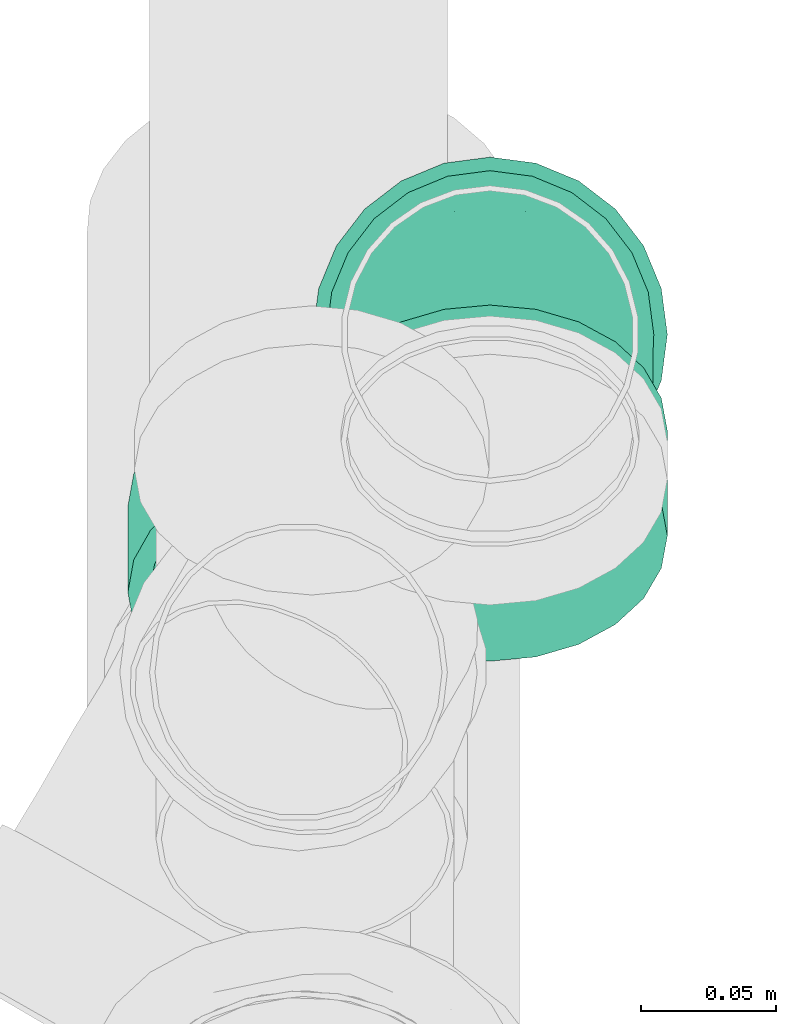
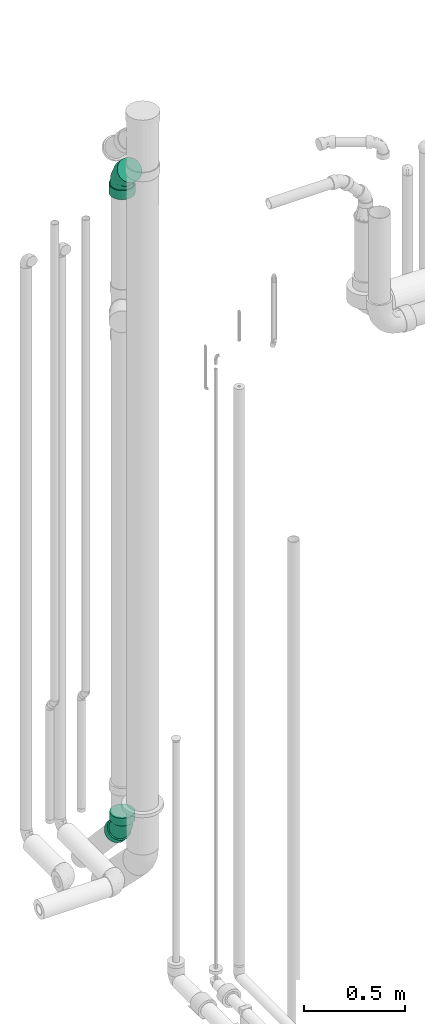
# One storey, part 55 of 78: 2 flow fittings.
"""IFC2X3 building model written with IfcOpenShell, lengths in millimetres."""

from ifc_helpers import new_model, entity, si_unit, converted_unit, derived_unit, direction, frame, origin_with_axes, place, context, subcontext, project, spatial, open_shell, surface_model, source, transform, mapped, type_object, element, save


model = new_model("IFC2X3")

# Units and contexts
model_context = context("Model", 3, precision=0.01, world=frame((0.0, 4.29681676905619e-09, 0.0)), true_north=direction((4.01073788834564e-13, 1.0)))
plan_context = context("Plan", 3, precision=0.01, world=frame((0.0, 4.29681676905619e-09, 0.0)), true_north=direction((4.01073788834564e-13, 1.0)))
body_context = subcontext(model_context, "Body", "Model", "MODEL_VIEW")
ifc_project = project(units=[converted_unit("PLANEANGLEUNIT", "DEGREE", entity("IfcPositiveLengthMeasure", 0.0174532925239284), si_unit("PLANEANGLEUNIT", "RADIAN"), dimensions=[0, 0, 0, 0, 0, 0, 0]), si_unit("AREAUNIT", "SQUARE_METRE"), si_unit("LENGTHUNIT", "METRE", prefix="MILLI"), si_unit("MASSUNIT", "GRAM", prefix="KILO"), si_unit("POWERUNIT", "WATT"), si_unit("PRESSUREUNIT", "PASCAL"), si_unit("FORCEUNIT", "NEWTON", prefix="KILO"), si_unit("ELECTRICVOLTAGEUNIT", "VOLT"), si_unit("ELECTRICCURRENTUNIT", "AMPERE"), si_unit("THERMODYNAMICTEMPERATUREUNIT", "DEGREE_CELSIUS"), si_unit("TIMEUNIT", "SECOND"), si_unit("VOLUMEUNIT", "CUBIC_METRE"), derived_unit("LINEARVELOCITYUNIT", [(si_unit("LENGTHUNIT", "METRE"), 1), (si_unit("TIMEUNIT", "SECOND"), -1)]), derived_unit("VOLUMETRICFLOWRATEUNIT", [(si_unit("VOLUMEUNIT", "CUBIC_METRE"), 1), (si_unit("TIMEUNIT", "SECOND"), -1)]), derived_unit("THERMALTRANSMITTANCEUNIT", [(si_unit("POWERUNIT", "WATT"), 1), (si_unit("THERMODYNAMICTEMPERATUREUNIT", "KELVIN"), -1), (si_unit("AREAUNIT", "SQUARE_METRE"), -1)]), derived_unit("SOUNDPRESSUREUNIT", [(si_unit("PRESSUREUNIT", "PASCAL"), 1)])], contexts=[model_context, plan_context])

# Site, building, storey
site_placement = place(None, frame((0.0, -4.29681676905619e-09, 0.0), z_axis=(0.0, 0.0, 1.0), x_axis=(1.0, 0.0, 0.0)))
site = spatial("IfcSite", under=ifc_project, at=site_placement, Name="ENGM", CompositionType="ELEMENT")
building_placement = place(site_placement, frame((0.0, 4.29681676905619e-09, 0.0), z_axis=(0.0, 0.0, 1.0), x_axis=(1.0, 0.0, 0.0)))
building = spatial("IfcBuilding", under=site, at=building_placement, Name="TH", CompositionType="ELEMENT")
storey_placement = place(building_placement, frame((0.0, 0.0, 205200.0), z_axis=(0.0, 0.0, 1.0), x_axis=(1.0, 0.0, 0.0)))
storey = spatial("IfcBuildingStorey", under=building, at=storey_placement, Name="Nivå D + 1,2 m", CompositionType="ELEMENT", Elevation=205200.0)

# Flow fittings
pipe_fitting_type_1 = type_object("IfcPipeFittingType", Name="magi_sewer_bend_001 2", PredefinedType="BEND")
shared_shape_1 = source(origin_with_axes(), body_context, "Body", "SurfaceModel", [
    surface_model("IfcShellBasedSurfaceModel", [(-105.11984, -16.95265, -63.26814), (-105.11984, -32.75, -56.72466), (-105.11984, -46.3155, -46.3155), (-105.11984, -63.26814, -16.95265), (-105.11984, 56.72466, -32.75), (-105.11984, 65.5, 0.0), (-105.11984, -56.72466, -32.75), (-105.11984, 16.95265, -63.26814), (-105.11984, 46.3155, -46.3155), (-105.11984, 32.75, -56.72466), (-105.11984, 0.0, -65.5), (-105.11984, 63.26814, -16.95265), (-105.11984, -65.5, 0.0), (-105.11984, -63.26814, 16.95265), (-105.11984, -56.72466, 32.75), (-105.11984, -46.3155, 46.3155), (-105.11984, -16.95265, 63.26814), (-105.11984, 0.0, 65.5), (-105.11984, -32.75, 56.72466), (-105.11984, 63.26814, 16.95265), (-105.11984, 46.3155, 46.3155), (-105.11984, 56.72466, 32.75), (-105.11984, 16.95265, 63.26814), (-105.11984, 32.75, 56.72466), (-50.11984, -16.95265, 63.26814), (-50.11984, 16.95265, 63.26814), (-50.11984, 0.0, 65.5), (-50.11984, -46.3155, 46.3155), (-50.11984, -32.75, 56.72466), (-50.11984, -56.72466, 32.75), (-50.11984, -63.26814, 16.95265), (-50.11984, 46.3155, 46.3155), (-50.11984, 32.75, 56.72466), (-50.11984, 63.26814, 16.95265), (-50.11984, 56.72466, 32.75), (-50.11984, 63.26814, -16.95265), (-50.11984, 65.5, 0.0), (-50.11984, -63.26814, -16.95265), (-50.11984, 32.75, -56.72466), (-50.11984, -65.5, 0.0), (-50.11984, -16.95265, -63.26814), (-50.11984, -56.72466, -32.75), (-50.11984, -46.3155, -46.3155), (-50.11984, -32.75, -56.72466), (-50.11984, 0.0, -65.5), (-50.11984, 46.3155, -46.3155), (-50.11984, 56.72466, -32.75), (-50.11984, 16.95265, -63.26814), (29.59362, 119.06829, 16.95265), (34.22056, 114.44134, 32.75), (41.58095, 107.08095, 46.3155), (62.34362, 86.31829, 63.26814), (51.17321, 97.4887, -56.72466), (51.17321, 97.4887, 56.72466), (74.33095, 74.33095, 65.5), (29.59362, 119.06829, -16.95265), (28.01546, 120.64644, 0.0), (34.22056, 114.44134, -32.75), (41.58095, 107.08095, -46.3155), (62.34362, 86.31829, -63.26814), (86.31829, 62.34362, 63.26814), (97.4887, 51.17321, 56.72466), (107.08095, 41.58095, 46.3155), (86.31829, 62.34362, -63.26814), (119.06829, 29.59362, 16.95265), (120.64644, 28.01546, 0.0), (114.44134, 34.22056, 32.75), (97.4887, 51.17321, -56.72466), (74.33095, 74.33095, -65.5), (114.44134, 34.22056, -32.75), (107.08095, 41.58095, -46.3155), (119.06829, 29.59362, -16.95265), (81.75557, -10.87541, 0.0), (80.17741, -9.29725, 16.95265), (75.55048, -4.67032, 32.75), (68.19008, 2.69008, 46.3155), (58.59783, 12.28233, 56.72466), (47.42741, 23.45275, 63.26814), (35.44008, 35.44008, -65.5), (23.45275, 47.42741, 63.26814), (75.55048, -4.67032, -32.75), (47.42741, 23.45275, -63.26814), (68.19008, 2.69008, -46.3155), (80.17741, -9.29725, -16.95265), (58.59783, 12.28233, -56.72466), (35.44008, 35.44008, 65.5), (-4.67032, 75.55048, -32.75), (-9.29725, 80.17741, 16.95265), (12.28233, 58.59783, 56.72466), (-4.67032, 75.55048, 32.75), (2.69008, 68.19008, 46.3155), (-10.87541, 81.75557, 0.0), (2.69008, 68.19008, -46.3155), (12.28233, 58.59783, -56.72466), (23.45275, 47.42741, -63.26814), (-9.29725, 80.17741, -16.95265), (-50.11984, 15.65855, -58.43851), (-50.11984, 0.0, -60.5), (-50.11984, 58.43851, -15.65855), (-50.11984, 30.25, -52.39454), (-50.11984, 52.39454, -30.25), (-50.11984, 42.77996, -42.77996), (-50.11984, -60.5, 0.0), (-50.11984, -30.25, -52.39454), (-50.11984, -42.77996, -42.77996), (-50.11984, -15.65855, -58.43851), (-50.11984, -58.43851, -15.65855), (-50.11984, -52.39454, -30.25), (-50.11984, -58.43851, 15.65855), (-50.11984, 58.43851, 15.65855), (-50.11984, 52.39454, 30.25), (-50.11984, 42.77996, 42.77996), (-50.11984, 30.25, 52.39454), (-50.11984, 15.65855, 58.43851), (-50.11984, -52.39454, 30.25), (-50.11984, -42.77996, 42.77996), (-50.11984, -30.25, 52.39454), (-50.11984, -15.65855, 58.43851), (-50.11984, 0.0, 60.5), (-50.11984, 60.5, 0.0), (-5.88219, 76.76235, -15.65855), (35.44008, 35.44008, -60.5), (24.36781, 46.51235, -58.43851), (14.0501, 56.83006, -52.39454), (5.19008, 65.69008, -42.77996), (-1.60845, 72.48861, -30.25), (46.51235, 24.36781, -58.43851), (56.83006, 14.0501, -52.39454), (78.22004, -7.33988, 0.0), (65.69008, 5.19008, -42.77996), (72.48861, -1.60845, -30.25), (76.76235, -5.88219, -15.65855), (-7.33988, 78.22004, 0.0), (24.36781, 46.51235, 58.43851), (-5.88219, 76.76235, 15.65855), (5.19008, 65.69008, 42.77996), (-1.60845, 72.48861, 30.25), (14.0501, 56.83006, 52.39454), (35.44008, 35.44008, 60.5), (72.48861, -1.60845, 30.25), (56.83006, 14.0501, 52.39454), (65.69008, 5.19008, 42.77996), (76.76235, -5.88219, 15.65855), (46.51235, 24.36781, 58.43851), (15.40898, -37.20057, 33.71482), (-13.38469, -34.19321, 46.68416), (-19.53618, -46.27104, 35.42508), (-20.21421, -56.56285, 0.0), (-3.14418, -54.31554, 0.0), (-12.91334, -55.73755, 10.33096), (46.53273, -18.9044, 35.42508), (-23.97238, -22.18485, 55.29389), (6.21199, -14.99708, 54.53161), (1.79579, 36.37132, 56.46814), (10.937, 28.63799, 59.62004), (-18.05654, -5.82509, 59.69848), (-5.75437, 13.89228, 60.2874), (-30.31328, 8.38356, 60.13285), (-17.18515, 41.48861, 49.39252), (-26.68033, 50.73817, 38.17957), (32.63809, 1.26397, 55.29389), (-23.24601, 25.1757, 56.55898), (23.34807, -39.59646, 23.84351), (-10.84785, -52.34167, 21.0101), (18.78371, -45.3479, 13.14971), (-24.92328, 60.17012, 24.85601), (48.54351, -30.28129, 10.33096), (54.28958, -25.70237, 0.0), (-24.23293, 64.82746, 12.71177), (44.68174, -29.34056, 21.0101), (16.88687, 8.64894, 59.69848), (33.64265, -14.71385, 46.68416), (-26.96749, 65.10529, 0.0), (10.1548, -24.51586, 48.24539), (18.74299, -45.24957, 0.0), (40.63016, -36.18361, 0.0), (-18.05654, -5.82509, -59.69848), (-12.91334, -55.73755, -10.33096), (18.78371, -45.3479, -13.1497), (16.88687, 8.64894, -59.69848), (-26.98822, 24.44859, -56.46814), (-27.98374, 12.51649, -59.62004), (-17.01146, 54.74315, -38.17957), (33.64265, -14.71385, -46.68416), (-24.92328, 60.17012, -24.85601), (44.68174, -29.34056, -21.0101), (-28.70466, 62.9752, -12.71176), (-1.3645, 34.23932, -56.55898), (-10.84785, -52.34167, -21.0101), (-17.18515, 41.48861, -49.39253), (-19.53618, -46.27104, -35.42508), (-13.38469, -34.19321, -46.68416), (10.1548, -24.51586, -48.24539), (15.40898, -37.20057, -33.71482), (-23.97238, -22.18485, -55.29389), (32.63809, 1.26397, -55.29389), (6.21199, -14.99708, -54.53161), (48.54351, -30.28129, -10.33096), (15.50665, 27.3628, -60.13285), (11.48935, -44.50851, -23.84351), (46.53273, -18.9044, -35.42508), (-5.75437, 13.89228, -60.2874)], [open_shell([[[0, 1, 2]], [[0, 2, 3]], [[4, 0, 5]], [[3, 2, 6]], [[3, 5, 0]], [[7, 8, 9]], [[8, 7, 10]], [[0, 8, 10]], [[0, 4, 8]], [[4, 5, 11]], [[5, 3, 12]], [[13, 14, 15]], [[5, 13, 15]], [[16, 17, 15]], [[16, 15, 18]], [[5, 15, 17]], [[19, 20, 21]], [[22, 19, 5]], [[20, 22, 23]], [[22, 20, 19]], [[5, 17, 22]], [[13, 5, 12]], [[24, 25, 26]], [[27, 24, 28]], [[27, 29, 30]], [[24, 27, 25]], [[30, 25, 27]], [[25, 31, 32]], [[31, 25, 33]], [[31, 33, 34]], [[25, 30, 33]], [[33, 35, 36]], [[33, 30, 35]], [[37, 38, 39]], [[40, 37, 41]], [[42, 43, 40]], [[42, 40, 41]], [[44, 37, 40]], [[39, 45, 46]], [[46, 35, 39]], [[38, 44, 47]], [[38, 45, 39]], [[38, 37, 44]], [[39, 35, 30]], [[35, 11, 36]], [[46, 4, 35]], [[47, 44, 7]], [[45, 8, 46]], [[35, 4, 11]], [[11, 5, 36]], [[9, 38, 7]], [[9, 8, 45]], [[38, 47, 7]], [[8, 4, 46]], [[45, 38, 9]], [[44, 10, 7]], [[0, 40, 43]], [[42, 1, 43]], [[6, 41, 37]], [[42, 41, 2]], [[3, 37, 39]], [[40, 0, 10]], [[43, 1, 0]], [[42, 2, 1]], [[41, 6, 2]], [[3, 6, 37]], [[39, 12, 3]], [[40, 10, 44]], [[30, 13, 39]], [[29, 14, 30]], [[28, 18, 27]], [[27, 15, 29]], [[30, 14, 13]], [[13, 12, 39]], [[17, 16, 24]], [[16, 18, 28]], [[15, 27, 18]], [[15, 14, 29]], [[24, 16, 28]], [[24, 26, 17]], [[22, 25, 32]], [[31, 23, 32]], [[21, 34, 33]], [[31, 34, 20]], [[19, 33, 36]], [[25, 22, 17]], [[32, 23, 22]], [[31, 20, 23]], [[34, 21, 20]], [[19, 21, 33]], [[36, 5, 19]], [[25, 17, 26]], [[48, 49, 50]], [[48, 50, 51]], [[48, 51, 52]], [[51, 50, 53]], [[52, 51, 54]], [[48, 55, 56]], [[48, 57, 55]], [[58, 57, 48]], [[48, 52, 58]], [[54, 59, 52]], [[54, 60, 59]], [[60, 61, 62]], [[63, 60, 62]], [[64, 65, 62]], [[64, 62, 66]], [[63, 62, 65]], [[65, 67, 63]], [[68, 59, 63]], [[65, 69, 70]], [[70, 67, 65]], [[65, 71, 69]], [[63, 59, 60]], [[72, 73, 74]], [[72, 74, 75]], [[75, 76, 77]], [[72, 75, 78]], [[79, 78, 75]], [[80, 81, 82]], [[80, 83, 72]], [[82, 81, 84]], [[72, 81, 80]], [[72, 78, 81]], [[75, 77, 85]], [[86, 78, 79]], [[87, 79, 88]], [[89, 87, 88]], [[89, 88, 90]], [[91, 79, 87]], [[92, 93, 78]], [[94, 78, 93]], [[86, 91, 95]], [[92, 78, 86]], [[86, 79, 91]], [[79, 75, 85]], [[94, 59, 78]], [[93, 52, 94]], [[95, 91, 55]], [[92, 58, 93]], [[94, 52, 59]], [[59, 68, 78]], [[57, 86, 55]], [[57, 58, 92]], [[86, 95, 55]], [[58, 52, 93]], [[92, 86, 57]], [[91, 56, 55]], [[48, 87, 89]], [[90, 49, 89]], [[53, 88, 79]], [[90, 88, 50]], [[51, 79, 85]], [[87, 48, 56]], [[89, 49, 48]], [[90, 50, 49]], [[88, 53, 50]], [[51, 53, 79]], [[85, 54, 51]], [[87, 56, 91]], [[77, 60, 85]], [[76, 61, 77]], [[74, 66, 75]], [[75, 62, 76]], [[77, 61, 60]], [[60, 54, 85]], [[65, 64, 73]], [[64, 66, 74]], [[62, 75, 66]], [[62, 61, 76]], [[73, 64, 74]], [[73, 72, 65]], [[71, 83, 80]], [[82, 69, 80]], [[67, 84, 81]], [[82, 84, 70]], [[63, 81, 78]], [[83, 71, 65]], [[80, 69, 71]], [[82, 70, 69]], [[84, 67, 70]], [[63, 67, 81]], [[78, 68, 63]], [[83, 65, 72]], [[96, 97, 98]], [[99, 96, 98]], [[98, 100, 101]], [[99, 98, 101]], [[102, 98, 97]], [[103, 104, 105]], [[104, 97, 105]], [[106, 102, 107]], [[104, 107, 102]], [[104, 102, 97]], [[102, 108, 98]], [[109, 98, 108]], [[110, 109, 111]], [[112, 109, 108]], [[111, 109, 112]], [[113, 112, 108]], [[114, 115, 108]], [[116, 108, 115]], [[117, 118, 116]], [[108, 116, 118]], [[118, 113, 108]], [[119, 98, 109]], [[120, 121, 122]], [[120, 122, 123]], [[124, 125, 120]], [[124, 120, 123]], [[121, 120, 126]], [[127, 128, 129]], [[128, 127, 126]], [[130, 128, 131]], [[128, 130, 129]], [[126, 120, 128]], [[120, 132, 128]], [[133, 132, 134]], [[135, 134, 136]], [[137, 133, 134]], [[137, 134, 135]], [[132, 133, 138]], [[139, 140, 141]], [[140, 139, 142]], [[140, 138, 143]], [[138, 140, 142]], [[142, 132, 138]], [[132, 142, 128]], [[144, 145, 146]], [[147, 148, 149]], [[116, 115, 145]], [[139, 141, 150]], [[151, 145, 152]], [[146, 145, 115]], [[133, 153, 154]], [[117, 116, 151]], [[155, 156, 157]], [[118, 117, 155]], [[111, 158, 159]], [[140, 143, 160]], [[157, 113, 118]], [[112, 161, 158]], [[108, 147, 149]], [[137, 135, 158]], [[162, 163, 164]], [[158, 111, 112]], [[115, 114, 146]], [[110, 159, 165]], [[109, 110, 165]], [[142, 166, 167]], [[168, 119, 109]], [[169, 162, 164]], [[163, 149, 164]], [[112, 113, 161]], [[138, 154, 170]], [[141, 140, 171]], [[136, 134, 165]], [[170, 143, 138]], [[144, 146, 163]], [[141, 171, 150]], [[156, 154, 153]], [[171, 140, 160]], [[114, 163, 146]], [[166, 142, 169]], [[144, 150, 171]], [[157, 161, 113]], [[144, 162, 150]], [[109, 165, 168]], [[114, 108, 163]], [[172, 168, 132]], [[145, 173, 152]], [[134, 168, 165]], [[152, 170, 155]], [[136, 165, 159]], [[152, 160, 170]], [[136, 159, 135]], [[156, 155, 170]], [[133, 137, 153]], [[153, 158, 161]], [[151, 155, 117]], [[110, 111, 159]], [[169, 142, 139]], [[169, 139, 150]], [[173, 144, 171]], [[135, 159, 158]], [[158, 153, 137]], [[156, 153, 161]], [[145, 151, 116]], [[155, 151, 152]], [[170, 160, 143]], [[171, 160, 152]], [[108, 102, 147]], [[164, 148, 174]], [[108, 149, 163]], [[148, 164, 149]], [[166, 164, 175]], [[167, 166, 175]], [[167, 128, 142]], [[164, 166, 169]], [[170, 154, 156]], [[138, 133, 154]], [[155, 157, 118]], [[161, 157, 156]], [[144, 173, 145]], [[171, 152, 173]], [[132, 168, 134]], [[168, 172, 119]], [[150, 162, 169]], [[163, 162, 144]], [[175, 164, 174]], [[105, 97, 176]], [[148, 177, 178]], [[121, 126, 179]], [[180, 181, 96]], [[100, 182, 101]], [[127, 129, 183]], [[184, 182, 100]], [[130, 131, 185]], [[98, 186, 184]], [[123, 122, 187]], [[106, 177, 147]], [[99, 180, 96]], [[177, 106, 188]], [[124, 189, 182]], [[188, 107, 190]], [[190, 104, 191]], [[104, 103, 191]], [[192, 193, 191]], [[106, 107, 188]], [[104, 190, 107]], [[194, 103, 105]], [[195, 179, 126]], [[120, 125, 184]], [[196, 194, 176]], [[119, 172, 186]], [[193, 190, 191]], [[132, 120, 186]], [[196, 176, 179]], [[124, 123, 189]], [[184, 100, 98]], [[125, 182, 184]], [[194, 191, 103]], [[187, 189, 123]], [[181, 176, 97]], [[189, 187, 180]], [[101, 189, 99]], [[131, 167, 197]], [[198, 122, 121]], [[195, 126, 127]], [[199, 185, 178]], [[129, 200, 183]], [[196, 195, 183]], [[129, 130, 200]], [[201, 198, 179]], [[200, 193, 183]], [[201, 179, 176]], [[197, 167, 175]], [[198, 187, 122]], [[201, 181, 180]], [[177, 188, 178]], [[193, 199, 190]], [[183, 192, 196]], [[130, 185, 200]], [[120, 184, 186]], [[193, 200, 185]], [[125, 124, 182]], [[101, 182, 189]], [[189, 180, 99]], [[201, 180, 187]], [[176, 194, 105]], [[191, 194, 196]], [[183, 195, 127]], [[179, 195, 196]], [[147, 177, 148]], [[147, 102, 106]], [[199, 178, 188]], [[197, 178, 185]], [[178, 175, 174]], [[131, 128, 167]], [[178, 197, 175]], [[131, 197, 185]], [[176, 181, 201]], [[97, 96, 181]], [[179, 198, 121]], [[187, 198, 201]], [[193, 192, 183]], [[191, 196, 192]], [[119, 186, 98]], [[186, 172, 132]], [[190, 199, 188]], [[185, 199, 193]], [[148, 178, 174]]])]),
])
flow_fitting_1_placement = place(storey_placement, frame((895907.76271, 480148.00219, 8231.60126999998), z_axis=(1.0, 0.0, 0.0), x_axis=(0.0, 0.0, 1.0)))
element("IfcFlowFitting", 1, at=flow_fitting_1_placement, inside=storey, type_object=pipe_fitting_type_1, Name="magi_sewer_bend_001 2", context=body_context, shape_type="MappedRepresentation", body=[
    mapped(shared_shape_1, transform((0.0, 0.0, 0.0), scale=1.0)),
])
pipe_fitting_type_2 = type_object("IfcPipeFittingType", Name="magi_sewer_bend_NOR", PredefinedType="BEND")
shared_shape_2 = source(origin_with_axes(), body_context, "Body", "SurfaceModel", [
    surface_model("IfcShellBasedSurfaceModel", [(-89.83015, -31.5, -54.5596), (-89.83015, 0.0, -63.0), (-89.83015, -16.3056, -60.85333), (-89.83015, -60.85333, -16.3056), (-89.83015, -44.54773, -44.54773), (-89.83015, 31.5, -54.5596), (-89.83015, -54.5596, -31.5), (-89.83015, 54.5596, -31.5), (-89.83015, -63.0, 0.0), (-89.83015, 16.3056, -60.85333), (-89.83015, 44.54773, -44.54773), (-89.83015, 63.0, 0.0), (-89.83015, 60.85333, -16.3056), (-89.83015, 54.5596, 31.5), (-89.83015, -60.85333, 16.3056), (-89.83015, -54.5596, 31.5), (-89.83015, -44.54773, 44.54773), (-89.83015, 0.0, 63.0), (-89.83015, -31.5, 54.5596), (-89.83015, -16.3056, 60.85333), (-89.83015, 31.5, 54.5596), (-89.83015, 60.85333, 16.3056), (-89.83015, 44.54773, 44.54773), (-89.83015, 16.3056, 60.85333), (-43.33015, 0.0, 63.0), (-43.33015, -16.3056, 60.85333), (-43.33015, -31.5, 54.5596), (-43.33015, -44.54773, 44.54773), (-43.33015, -54.5596, 31.5), (-43.33015, -60.85333, 16.3056), (-43.33015, 54.5596, 31.5), (-43.33015, -63.0, 0.0), (-43.33015, 31.5, 54.5596), (-43.33015, 44.54773, 44.54773), (-43.33015, 16.3056, 60.85333), (-43.33015, 63.0, 0.0), (-43.33015, 60.85333, 16.3056), (-43.33015, 54.5596, -31.5), (-43.33015, -60.85333, -16.3056), (-43.33015, -44.54773, -44.54773), (-43.33015, -54.5596, -31.5), (-43.33015, -31.5, -54.5596), (-43.33015, 31.5, -54.5596), (-43.33015, -16.3056, -60.85333), (-43.33015, 0.0, -63.0), (-43.33015, 44.54773, -44.54773), (-43.33015, 60.85333, -16.3056), (-43.33015, 16.3056, -60.85333), (24.19575, 105.76933, -16.3056), (24.19575, 105.76933, 16.3056), (28.48806, 101.16638, 31.5), (35.31614, 93.84416, 44.54773), (28.48806, 101.16638, -31.5), (54.57722, 73.18918, 60.85333), (44.21467, 84.30166, 54.5596), (65.69762, 61.26402, -63.0), (22.73172, 107.3393, 0.0), (44.21467, 84.30166, -54.5596), (35.31614, 93.84416, -44.54773), (54.57722, 73.18918, -60.85333), (65.69762, 61.26402, 63.0), (76.818, 49.33886, 60.85333), (87.18056, 38.22637, 54.5596), (96.07909, 28.68387, 44.54773), (102.90717, 21.36165, -31.5), (102.90717, 21.36165, 31.5), (107.19948, 16.75871, 16.3056), (108.66351, 15.18873, 0.0), (87.18056, 38.22637, -54.5596), (76.818, 49.33886, -60.85333), (96.07909, 28.68387, -44.54773), (107.19948, 16.75871, -16.3056), (74.65556, -16.52419, 0.0), (73.19154, -14.95421, 16.3056), (68.89922, -10.35127, 31.5), (68.89922, -10.35127, -31.5), (62.07114, -3.02905, 44.54773), (53.17262, 6.51345, 54.5596), (42.81006, 17.62593, 60.85333), (53.17262, 6.51345, -54.5596), (62.07114, -3.02905, -44.54773), (73.19154, -14.95421, -16.3056), (31.68967, 29.55109, -63.0), (42.81006, 17.62593, -60.85333), (10.20672, 52.58873, -54.5596), (-5.51989, 69.45346, -31.5), (20.56927, 41.47625, 60.85333), (-5.51989, 69.45346, 31.5), (10.20672, 52.58873, 54.5596), (1.30819, 62.13124, 44.54773), (-11.27623, 75.62637, 0.0), (-9.8122, 74.0564, 16.3056), (1.30819, 62.13124, -44.54773), (20.56927, 41.47625, -60.85333), (-9.8122, 74.0564, -16.3056), (31.68967, 29.55109, 63.0), (-43.33015, 14.23505, -53.12592), (-43.33015, 0.0, -55.0), (-43.33015, 38.89087, -38.89087), (-43.33015, 27.5, -47.63139), (-43.33015, -47.63139, -27.5), (-43.33015, 47.63139, -27.5), (-43.33015, 53.12592, 14.23505), (-43.33015, -14.23505, -53.12592), (-43.33015, -27.5, -47.63139), (-43.33015, -38.89087, -38.89087), (-43.33015, -53.12592, -14.23505), (-43.33015, -55.0, 0.0), (-43.33015, -47.63139, 27.5), (-43.33015, 53.12592, -14.23505), (-43.33015, 47.63139, 27.5), (-43.33015, 27.5, 47.63139), (-43.33015, 38.89087, 38.89087), (-43.33015, 14.23505, 53.12592), (-43.33015, 0.0, 55.0), (-43.33015, -38.89087, 38.89087), (-43.33015, -27.5, 47.63139), (-43.33015, -53.12592, 14.23505), (-43.33015, -14.23505, 53.12592), (-43.33015, 55.0, 0.0), (-0.79487, 64.38649, -27.5), (31.68967, 29.55109, -55.0), (21.98139, 39.96195, -53.12592), (5.16616, 57.99408, -38.89087), (12.93471, 49.66332, -47.63139), (41.39795, 19.14024, -53.12592), (-4.54212, 68.40493, -14.23505), (58.21318, 1.10811, -38.89087), (50.44462, 9.43887, -47.63139), (64.1742, -5.28431, -27.5), (69.19958, -10.67336, 0.0), (67.92146, -9.30275, -14.23505), (64.1742, -5.28431, 27.5), (-4.54212, 68.40493, 14.23505), (5.16616, 57.99408, 38.89087), (-0.79487, 64.38649, 27.5), (12.93471, 49.66332, 47.63139), (21.98139, 39.96195, 53.12592), (31.68967, 29.55109, 55.0), (50.44462, 9.43887, 47.63139), (58.21318, 1.10811, 38.89087), (67.92146, -9.30275, 14.23505), (41.39795, 19.14024, 53.12592), (-5.82024, 69.77555, 0.0), (-16.38777, -42.15009, 32.29901), (-8.69313, -47.76671, 19.24213), (13.66029, -34.67867, 30.90103), (-16.11609, -51.57815, 0.0), (-2.4823, -49.86386, 0.0), (-10.39356, -50.8272, 9.54635), (-10.81641, -31.18595, 42.52398), (40.73155, -19.65019, 32.29901), (-20.84689, -20.27405, 50.3206), (5.6278, -14.28699, 49.68794), (14.13225, 23.51045, 54.65375), (-14.80621, -5.33732, 54.28947), (-4.78551, 12.14874, 54.78744), (-26.36977, 7.55628, 54.65375), (29.17939, -15.43119, 42.52398), (29.07332, -0.60996, 50.3206), (-19.24628, 22.88052, 51.3842), (-14.71111, 37.34633, 44.79477), (19.79052, -37.45119, 22.03397), (16.62189, -42.19714, 12.4197), (-15.99483, 48.47665, 34.6936), (-20.75193, 54.65252, 22.41667), (42.26544, -30.08427, 9.54635), (46.96277, -26.73072, 0.0), (-21.33511, 58.27773, 11.44869), (38.93457, -29.00566, 19.24213), (14.77991, 6.39239, 54.29288), (2.41513, 32.36664, 51.27703), (-23.17258, 58.82703, 0.0), (8.9025, -22.60031, 44.35815), (16.6701, -42.31952, 0.0), (35.82251, -34.77519, 0.0), (-15.16894, -5.40478, -54.29288), (-10.39357, -50.8272, -9.54635), (16.62189, -42.19714, -12.4197), (14.46863, 6.19434, -54.28947), (-26.36977, 7.55628, -54.65375), (-21.36312, 46.36203, -34.69359), (-14.71111, 37.34633, -44.79477), (29.17939, -15.43119, -42.52398), (38.93457, -29.00566, -19.24213), (-22.09593, 54.12311, -22.41667), (-1.52864, 29.85968, -51.3842), (-23.84031, 22.02435, -51.27703), (-8.69313, -47.76671, -19.24213), (40.73155, -19.65019, -32.29901), (-16.38777, -42.15009, -32.29901), (13.66029, -34.67867, -30.90103), (11.06778, -40.88717, -22.03397), (-10.81641, -31.18595, -42.52398), (8.9025, -22.60031, -44.35815), (-20.84689, -20.27405, -50.3206), (29.07332, -0.60996, -50.3206), (5.6278, -14.28699, -49.68794), (-24.1418, 57.17214, -11.44869), (-4.78551, 12.14874, -54.78744), (42.26544, -30.08427, -9.54635), (14.13225, 23.51045, -54.65375)], [open_shell([[[0, 1, 2]], [[3, 0, 4]], [[5, 0, 3]], [[3, 4, 6]], [[7, 3, 8]], [[1, 5, 9]], [[1, 0, 5]], [[5, 7, 10]], [[3, 7, 5]], [[7, 11, 12]], [[7, 8, 13]], [[14, 15, 16]], [[14, 16, 17]], [[18, 19, 17]], [[18, 17, 16]], [[14, 17, 20]], [[11, 13, 21]], [[7, 13, 11]], [[13, 20, 22]], [[14, 20, 13]], [[17, 23, 20]], [[13, 8, 14]], [[24, 25, 26]], [[24, 26, 27]], [[27, 28, 29]], [[24, 27, 30]], [[27, 31, 30]], [[32, 30, 33]], [[32, 34, 24]], [[30, 35, 36]], [[30, 32, 24]], [[37, 35, 30]], [[27, 29, 31]], [[38, 37, 31]], [[39, 38, 40]], [[38, 41, 42]], [[41, 38, 39]], [[43, 44, 41]], [[37, 42, 45]], [[46, 35, 37]], [[42, 44, 47]], [[42, 37, 38]], [[44, 42, 41]], [[37, 30, 31]], [[46, 12, 35]], [[37, 7, 46]], [[5, 45, 42]], [[37, 45, 10]], [[9, 42, 47]], [[46, 7, 12]], [[12, 11, 35]], [[9, 5, 42]], [[10, 45, 5]], [[10, 7, 37]], [[1, 9, 47]], [[47, 44, 1]], [[0, 41, 39]], [[6, 40, 38]], [[39, 40, 4]], [[31, 3, 38]], [[41, 2, 43]], [[41, 0, 2]], [[2, 1, 43]], [[39, 4, 0]], [[40, 6, 4]], [[3, 6, 38]], [[31, 8, 3]], [[43, 1, 44]], [[29, 14, 31]], [[28, 15, 29]], [[18, 27, 26]], [[28, 27, 16]], [[19, 26, 25]], [[29, 15, 14]], [[14, 8, 31]], [[19, 18, 26]], [[16, 27, 18]], [[16, 15, 28]], [[17, 19, 25]], [[25, 24, 17]], [[23, 34, 32]], [[33, 20, 32]], [[13, 30, 36]], [[33, 30, 22]], [[21, 36, 35]], [[34, 23, 24]], [[32, 20, 23]], [[24, 23, 17]], [[33, 22, 20]], [[30, 13, 22]], [[21, 13, 36]], [[35, 11, 21]], [[48, 49, 50]], [[51, 48, 50]], [[52, 51, 53]], [[53, 51, 54]], [[55, 52, 53]], [[49, 48, 56]], [[51, 52, 48]], [[52, 57, 58]], [[52, 55, 57]], [[57, 55, 59]], [[60, 55, 53]], [[61, 62, 63]], [[63, 64, 60]], [[65, 66, 67]], [[65, 67, 63]], [[64, 63, 67]], [[55, 68, 69]], [[60, 68, 55]], [[68, 64, 70]], [[64, 68, 60]], [[67, 71, 64]], [[60, 61, 63]], [[72, 73, 74]], [[75, 72, 74]], [[76, 77, 78]], [[75, 74, 76]], [[75, 76, 78]], [[75, 79, 80]], [[75, 81, 72]], [[79, 82, 83]], [[84, 82, 79]], [[79, 75, 85]], [[75, 78, 86]], [[75, 86, 85]], [[87, 86, 88]], [[85, 86, 87]], [[87, 88, 89]], [[90, 87, 91]], [[84, 85, 92]], [[93, 82, 84]], [[85, 90, 94]], [[84, 79, 85]], [[90, 85, 87]], [[78, 95, 86]], [[93, 59, 82]], [[84, 57, 93]], [[52, 92, 85]], [[84, 92, 58]], [[48, 85, 94]], [[93, 57, 59]], [[59, 55, 82]], [[48, 52, 85]], [[58, 92, 52]], [[58, 57, 84]], [[56, 48, 94]], [[94, 90, 56]], [[50, 87, 89]], [[54, 88, 86]], [[89, 88, 51]], [[95, 53, 86]], [[87, 49, 91]], [[87, 50, 49]], [[49, 56, 91]], [[89, 51, 50]], [[88, 54, 51]], [[53, 54, 86]], [[95, 60, 53]], [[91, 56, 90]], [[78, 61, 95]], [[77, 62, 78]], [[65, 76, 74]], [[77, 76, 63]], [[66, 74, 73]], [[78, 62, 61]], [[61, 60, 95]], [[66, 65, 74]], [[63, 76, 65]], [[63, 62, 77]], [[67, 66, 73]], [[73, 72, 67]], [[64, 75, 80]], [[68, 79, 83]], [[80, 79, 70]], [[69, 83, 82]], [[71, 81, 64]], [[81, 71, 72]], [[81, 75, 64]], [[80, 70, 64]], [[79, 68, 70]], [[69, 68, 83]], [[82, 55, 69]], [[72, 71, 67]], [[96, 97, 98]], [[99, 96, 98]], [[100, 101, 97]], [[98, 97, 101]], [[101, 100, 102]], [[103, 104, 97]], [[104, 105, 97]], [[106, 107, 100]], [[100, 97, 105]], [[107, 108, 100]], [[109, 101, 102]], [[110, 102, 100]], [[110, 100, 108]], [[111, 112, 108]], [[108, 112, 110]], [[113, 111, 114]], [[115, 116, 108]], [[108, 107, 117]], [[118, 114, 116]], [[108, 116, 114]], [[108, 114, 111]], [[102, 119, 109]], [[120, 121, 122]], [[123, 122, 124]], [[121, 120, 125]], [[120, 122, 123]], [[125, 120, 126]], [[125, 127, 128]], [[125, 126, 127]], [[129, 130, 131]], [[130, 129, 127]], [[127, 132, 130]], [[127, 126, 132]], [[126, 133, 134]], [[134, 133, 135]], [[132, 134, 136]], [[134, 132, 126]], [[136, 137, 138]], [[132, 139, 140]], [[141, 130, 132]], [[139, 138, 142]], [[138, 139, 132]], [[136, 138, 132]], [[126, 143, 133]], [[144, 145, 146]], [[147, 148, 149]], [[116, 115, 150]], [[132, 140, 151]], [[152, 150, 153]], [[144, 115, 108]], [[138, 137, 154]], [[118, 116, 152]], [[155, 156, 157]], [[114, 118, 155]], [[158, 151, 140]], [[139, 142, 159]], [[157, 113, 114]], [[111, 160, 161]], [[117, 147, 149]], [[136, 134, 161]], [[162, 145, 163]], [[161, 112, 111]], [[144, 150, 115]], [[164, 112, 161]], [[110, 164, 165]], [[141, 166, 167]], [[168, 119, 102]], [[169, 162, 163]], [[145, 149, 163]], [[111, 113, 160]], [[170, 156, 155]], [[140, 139, 158]], [[112, 164, 110]], [[170, 142, 138]], [[110, 165, 102]], [[169, 132, 151]], [[156, 154, 171]], [[158, 139, 159]], [[168, 165, 133]], [[166, 141, 169]], [[145, 144, 108]], [[157, 160, 113]], [[151, 158, 146]], [[102, 165, 168]], [[108, 117, 145]], [[172, 168, 143]], [[150, 173, 153]], [[165, 164, 135]], [[153, 170, 155]], [[134, 135, 164]], [[153, 159, 170]], [[164, 161, 134]], [[170, 138, 154]], [[137, 136, 171]], [[171, 161, 160]], [[152, 155, 118]], [[165, 135, 133]], [[169, 141, 132]], [[150, 144, 146]], [[173, 146, 158]], [[151, 146, 162]], [[150, 152, 116]], [[155, 152, 153]], [[170, 159, 142]], [[158, 159, 153]], [[161, 171, 136]], [[156, 171, 160]], [[117, 107, 147]], [[163, 149, 148]], [[117, 149, 145]], [[174, 175, 163]], [[163, 175, 166]], [[167, 166, 175]], [[167, 130, 141]], [[163, 166, 169]], [[143, 168, 133]], [[168, 172, 119]], [[155, 157, 114]], [[160, 157, 156]], [[171, 154, 137]], [[170, 154, 156]], [[146, 173, 150]], [[158, 153, 173]], [[151, 162, 169]], [[145, 162, 146]], [[163, 148, 174]], [[103, 97, 176]], [[177, 178, 148]], [[121, 125, 179]], [[96, 180, 97]], [[181, 182, 98]], [[128, 127, 183]], [[101, 181, 98]], [[129, 131, 184]], [[101, 185, 181]], [[124, 122, 186]], [[106, 177, 147]], [[99, 187, 96]], [[177, 106, 188]], [[184, 189, 129]], [[190, 191, 192]], [[190, 188, 100]], [[105, 104, 193]], [[194, 191, 193]], [[106, 100, 188]], [[105, 190, 100]], [[195, 104, 103]], [[196, 179, 125]], [[101, 109, 185]], [[197, 195, 176]], [[119, 172, 198]], [[193, 190, 105]], [[143, 126, 198]], [[197, 176, 179]], [[123, 124, 182]], [[181, 185, 120]], [[181, 123, 182]], [[195, 193, 104]], [[186, 182, 124]], [[199, 179, 176]], [[182, 186, 187]], [[98, 182, 99]], [[131, 167, 200]], [[201, 122, 121]], [[196, 125, 128]], [[192, 184, 178]], [[129, 189, 127]], [[197, 196, 183]], [[189, 183, 127]], [[199, 201, 179]], [[191, 189, 184]], [[176, 97, 180]], [[200, 167, 175]], [[201, 186, 122]], [[199, 180, 187]], [[177, 188, 178]], [[190, 193, 191]], [[183, 194, 197]], [[198, 185, 109]], [[126, 185, 198]], [[120, 185, 126]], [[123, 181, 120]], [[183, 189, 191]], [[176, 195, 103]], [[193, 195, 197]], [[183, 196, 128]], [[179, 196, 197]], [[182, 187, 99]], [[199, 187, 186]], [[147, 177, 148]], [[147, 107, 106]], [[192, 178, 188]], [[200, 178, 184]], [[200, 175, 178]], [[131, 130, 167]], [[148, 178, 174]], [[131, 200, 184]], [[119, 198, 109]], [[198, 172, 143]], [[187, 180, 96]], [[176, 180, 199]], [[179, 201, 121]], [[186, 201, 199]], [[191, 194, 183]], [[193, 197, 194]], [[190, 192, 188]], [[184, 192, 191]], [[178, 175, 174]]])]),
])
flow_fitting_2_placement = place(storey_placement, frame((895837.03993, 480023.27263, 4392.05789), z_axis=(1.0, 0.0, 0.0), x_axis=(0.0, 3.999999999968e-06, -0.999999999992)))
element("IfcFlowFitting", 2, at=flow_fitting_2_placement, inside=storey, type_object=pipe_fitting_type_2, Name="magi_sewer_bend_NOR", context=body_context, shape_type="MappedRepresentation", body=[
    mapped(shared_shape_2, transform((0.0, 0.0, 0.0), scale=1.0)),
])

save(model, "model.ifc")
